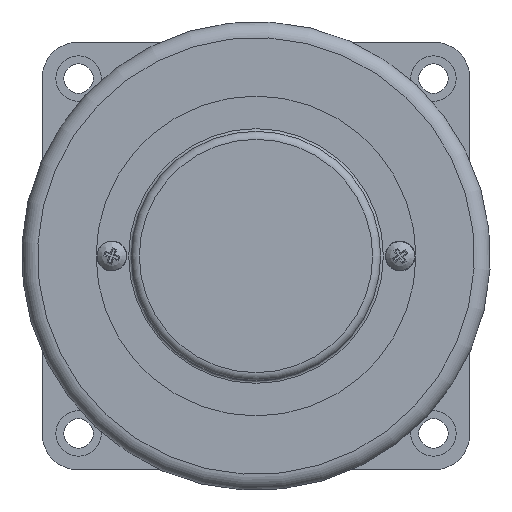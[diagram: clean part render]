
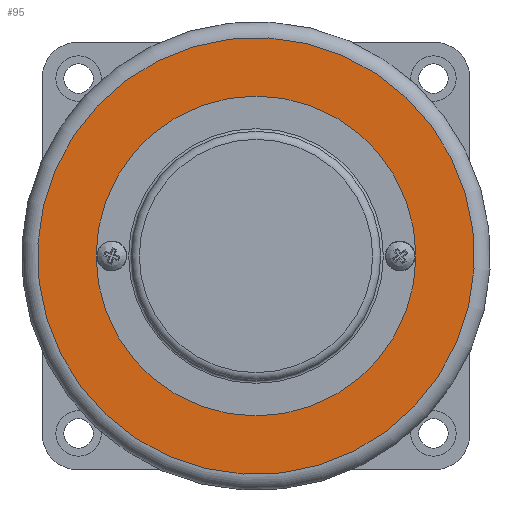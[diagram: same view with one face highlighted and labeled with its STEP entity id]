
A CAD part, left-side view. The second image highlights one B-rep face of the part: STEP entity #95.
In plain terms, the highlighted planar face has unit normal (-1, 0, 0).
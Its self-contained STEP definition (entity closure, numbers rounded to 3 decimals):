
#68=CARTESIAN_POINT('',(-38.5,0.,0.0));
#69=DIRECTION('',(-1.0,0.0,0.0));
#70=DIRECTION('',(0.0,0.059,-0.998));
#71=AXIS2_PLACEMENT_3D('',#68,#69,#70);
#72=PLANE('',#71);
#73=CARTESIAN_POINT('',(-38.5,-2.417,40.829));
#74=VERTEX_POINT('',#73);
#75=CARTESIAN_POINT('',(-38.5,0.,0.0));
#76=DIRECTION('',(1.,0.,0.));
#77=DIRECTION('',(0.,0.059,-0.998));
#78=AXIS2_PLACEMENT_3D('',#75,#76,#77);
#79=CIRCLE('',#78,40.9);
#80=EDGE_CURVE('',#74,#74,#79,.T.);
#81=ORIENTED_EDGE('',*,*,#80,.F.);
#82=EDGE_LOOP('',(#81));
#83=FACE_OUTER_BOUND('',#82,.T.);
#84=CARTESIAN_POINT('',(-38.5,-29.95,0.));
#85=VERTEX_POINT('',#84);
#86=CARTESIAN_POINT('',(-38.5,0.,0.));
#87=DIRECTION('',(-1.0,0.0,0.0));
#88=DIRECTION('',(0.0,1.0,0.0));
#89=AXIS2_PLACEMENT_3D('',#86,#87,#88);
#90=CIRCLE('',#89,29.95);
#91=EDGE_CURVE('',#85,#85,#90,.T.);
#92=ORIENTED_EDGE('',*,*,#91,.F.);
#93=EDGE_LOOP('',(#92));
#94=FACE_BOUND('',#93,.T.);
#95=ADVANCED_FACE('',(#83,#94),#72,.T.);
